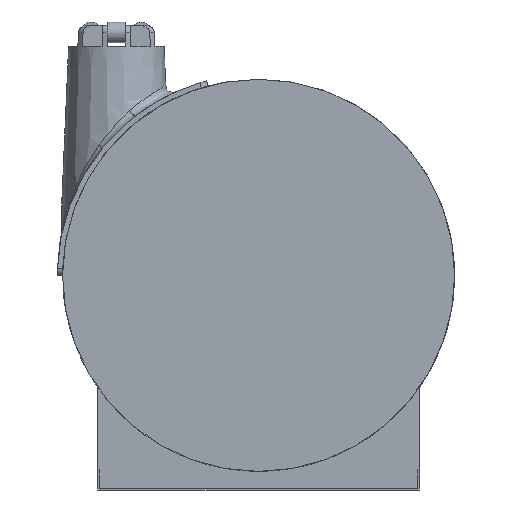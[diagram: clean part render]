
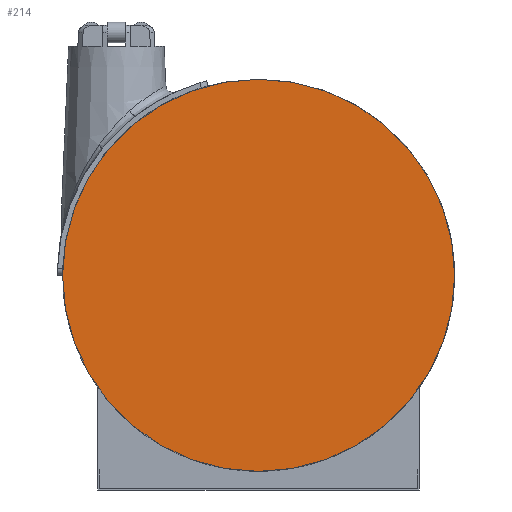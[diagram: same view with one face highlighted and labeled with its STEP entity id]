
A CAD part, left-side view. The second image highlights one B-rep face of the part: STEP entity #214.
In plain terms, the highlighted planar face has unit normal (-1, 0, 0).
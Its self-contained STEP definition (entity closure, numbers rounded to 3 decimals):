
#214 = ADVANCED_FACE( '', ( #588 ), #589, .T. );
#588 = FACE_OUTER_BOUND( '', #1884, .T. );
#589 = PLANE( '', #1885 );
#1884 = EDGE_LOOP( '', ( #3435 ) );
#1885 = AXIS2_PLACEMENT_3D( '', #3436, #3437, #3438 );
#3435 = ORIENTED_EDGE( '', *, *, #4898, .T. );
#3436 = CARTESIAN_POINT( '', ( -168.138, 0., 0. ) );
#3437 = DIRECTION( '', ( -1., 0., 0. ) );
#3438 = DIRECTION( '', ( 0., 0., 1. ) );
#4898 = EDGE_CURVE( '', #5507, #5507, #5508, .T. );
#5507 = VERTEX_POINT( '', #6681 );
#5508 = CIRCLE( '', #6682, 179.388 );
#6681 = CARTESIAN_POINT( '', ( -168.138, 0., 179.388 ) );
#6682 = AXIS2_PLACEMENT_3D( '', #8990, #8991, #8992 );
#8990 = CARTESIAN_POINT( '', ( -168.138, 0., 0. ) );
#8991 = DIRECTION( '', ( -1., 0., 0. ) );
#8992 = DIRECTION( '', ( 0., 0., 1. ) );
